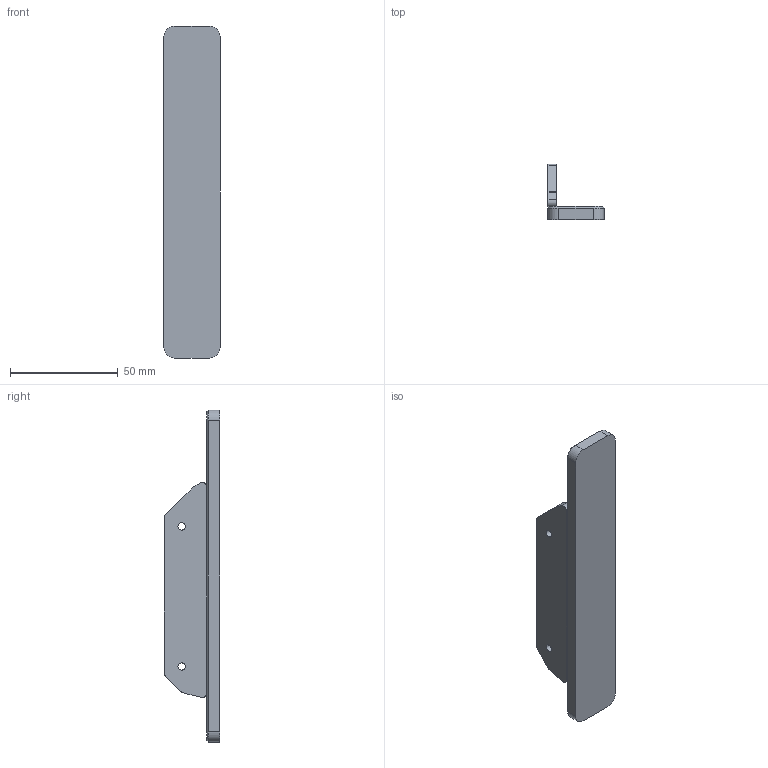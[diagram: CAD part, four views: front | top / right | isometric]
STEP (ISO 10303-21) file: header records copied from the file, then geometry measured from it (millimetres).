
FILE_DESCRIPTION(('Open CASCADE Model'),'2;1');
FILE_NAME('Open CASCADE Shape Model','2026-10-23T16:06:25',('Author'),( 'Open CASCADE'),'Open CASCADE STEP processor 7.8','Open CASCADE 7.8' ,'Unknown');
FILE_SCHEMA(('AUTOMOTIVE_DESIGN { 1 0 10303 214 1 1 1 1 }'));
Length unit declared in the file: millimetre
Products named in the file (1): Open CASCADE STEP translator 7.8 3
Bounding box: 26 x 25.6 x 154 mm (x, y, z)
Volume: 30796.7 mm3; surface area: 13769.9 mm2
Topology: 1 solids, 1 shells, 34 faces, 86 edges, 54 vertices
Faces by surface type: plane 18, cylinder 12, cone 4
Full cylindrical faces by diameter (mm): 3.4 x2
Entity records: 2202 total; most frequent: CARTESIAN_POINT 443, DIRECTION 340, LINE 206, VECTOR 206, ORIENTED_EDGE 172, PCURVE 172, DEFINITIONAL_REPRESENTATION 172, EDGE_CURVE 86
